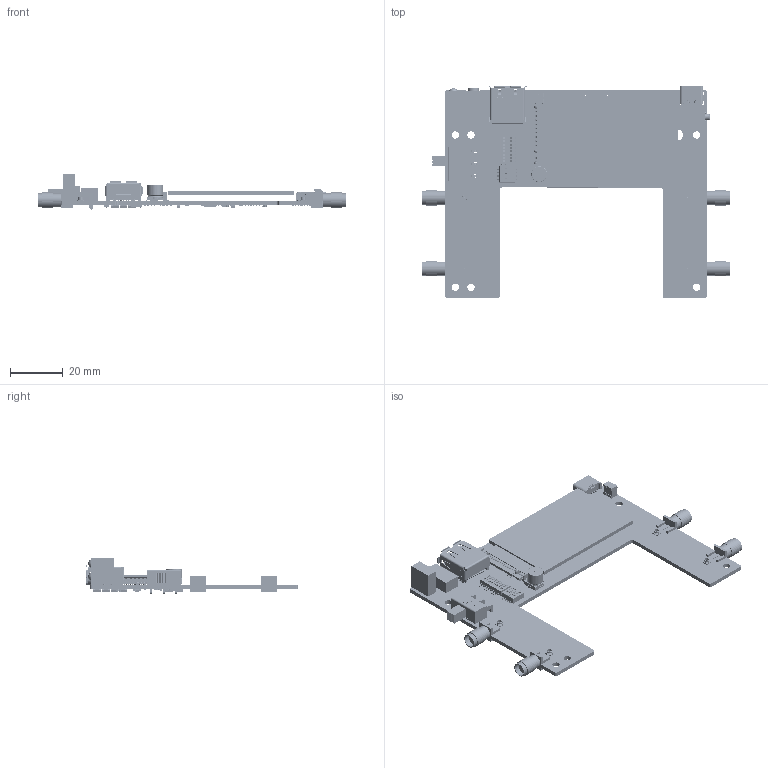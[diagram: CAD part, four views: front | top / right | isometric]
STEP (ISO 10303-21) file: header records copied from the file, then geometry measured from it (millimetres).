
FILE_DESCRIPTION(('Open CASCADE Model'),'2;1');
FILE_NAME('Open CASCADE Shape Model','2025-08-15T18:26:36',('Author'),( 'Open CASCADE'),'Open CASCADE STEP processor 6.5','Open CASCADE 6.5' ,'Unknown');
FILE_SCHEMA(('AUTOMOTIVE_DESIGN { 1 0 10303 214 1 1 1 1 }'));
Length unit declared in the file: millimetre
Products named in the file (234): PCB; Board; R50; R0603; R_0603-3615_AF0_ASM; R_0603-3601_AF0_ASM; _2_1_2_3_4_AF0; _7_1_2_AF0; 5_1_2_3_400; R49; R48; R47; C9; 3D_Model; C_1206-6326_AF0_ASM; C_1206-2941_AF0_ASM; _1_1_2_3_40001; 2_1_2_300; 3_1_2_3_A; C5; C_0805; C_0805-3038_AF1_ASM; C_0805-10418_AF1_ASM; 500; _1_1_2_30001; 4_A; C2; C_0603; C_0603-7177_AF0_ASM; C_0603-683_AF0_ASM; 2_1_200; _1_1_20001; 3_1_2_A; R45; R44; R43; R42; R41; R40; Q4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
Assembly tree (371 placements, depth 6):
  PCB
    Board
    R50
      R0603
        R_0603-3615_AF0_ASM
          R_0603-3601_AF0_ASM
            _2_1_2_3_4_AF0
            _7_1_2_AF0
            5_1_2_3_400
    R49
      R0603
        R_0603-3615_AF0_ASM
          R_0603-3601_AF0_ASM
            _2_1_2_3_4_AF0
            _7_1_2_AF0
            5_1_2_3_400
    R48
      R0603
        R_0603-3615_AF0_ASM
          R_0603-3601_AF0_ASM
            _2_1_2_3_4_AF0
            _7_1_2_AF0
            5_1_2_3_400
    R47
      R0603
        R_0603-3615_AF0_ASM
          R_0603-3601_AF0_ASM
            _2_1_2_3_4_AF0
            _7_1_2_AF0
            5_1_2_3_400
    C9
      3D_Model
        C_1206-6326_AF0_ASM
          C_1206-2941_AF0_ASM
            _1_1_2_3_40001
            2_1_2_300
            3_1_2_3_A
    C5
      C_0805
        C_0805-3038_AF1_ASM
          C_0805-10418_AF1_ASM
            500
            _1_1_2_30001
            4_A
    C2
      C_0603
        C_0603-7177_AF0_ASM
          C_0603-683_AF0_ASM
            2_1_200
            _1_1_20001
            3_1_2_A
    R45
      R0603
        R_0603-3615_AF0_ASM
          R_0603-3601_AF0_ASM
            _2_1_2_3_4_AF0
            _7_1_2_AF0
            5_1_2_3_400
    R44
      R0603
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Bounding box: 117.3 x 80.57 x 13.45 mm (x, y, z)
Volume: 14395.4 mm3; surface area: 22433.7 mm2
Topology: 411 solids, 412 shells, 51891 faces, 137896 edges, 90963 vertices
Faces by surface type: plane 38402, extrusion 10114, cylinder 2464, sphere 522, bspline 227, torus 122, cone 32, revolution 8
Full cylindrical faces by diameter (mm): 0.762 x4, 0.8 x2, 0.813 x4, 1 x3, 1.15 x1, 1.4 x2, 1.65 x1, 4.2 x2, 4.4 x1
Entity records: 697930 total; most frequent: CARTESIAN_POINT 233016, DIRECTION 72504, VECTOR 51397, LINE 50253, ORIENTED_EDGE 47154, PCURVE 47154, DEFINITIONAL_REPRESENTATION 47154, EDGE_CURVE 23591
